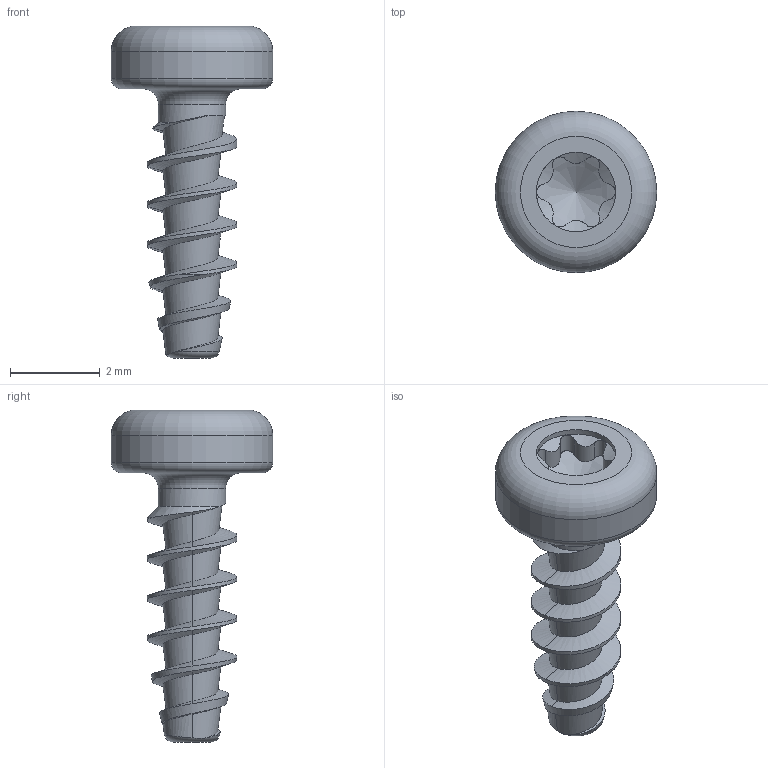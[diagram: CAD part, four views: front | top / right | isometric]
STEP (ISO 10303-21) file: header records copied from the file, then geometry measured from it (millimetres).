
FILE_DESCRIPTION(/* description */ (''),/* implementation_level */ '2;1');
FILE_NAME(/* name */ 'KN1039-STS-20x6-T6.step',/* time_stamp */ '2017-10-12T16:11:40+02:00',/* author */ (''),/* organization */ (''),/* preprocessor_version */ 'ST-DEVELOPER v16',/* originating_system */ 'SIEMENS PLM Software NX 10.0',/* authorisation */ '');
FILE_SCHEMA (('AUTOMOTIVE_DESIGN { 1 0 10303 214 3 1 1 1 }'));
Length unit declared in the file: millimetre
Products named in the file (1): KN1039-STS-20x6-T6
Bounding box: 3.6 x 3.6 x 7.4 mm (x, y, z)
Volume: 21.3 mm3; surface area: 74.2 mm2
Topology: 1 solids, 1 shells, 48 faces, 121 edges, 76 vertices
Faces by surface type: bspline 20, cylinder 16, cone 4, torus 4, plane 4
Full cylindrical faces by diameter (mm): 1.5 x1, 1.77 x1, 3.6 x1
Entity records: 2949 total; most frequent: CARTESIAN_POINT 2025, ORIENTED_EDGE 212, DIRECTION 115, EDGE_CURVE 106, VERTEX_POINT 71, B_SPLINE_CURVE_WITH_KNOTS 63, EDGE_LOOP 58, ADVANCED_FACE 48
